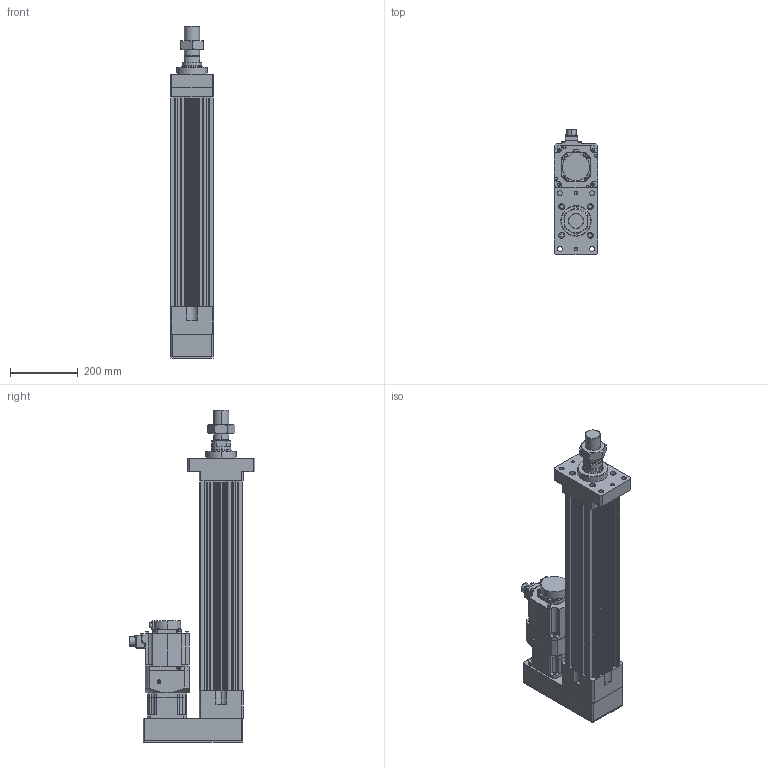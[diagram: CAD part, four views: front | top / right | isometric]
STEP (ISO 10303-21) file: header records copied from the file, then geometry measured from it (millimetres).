
FILE_DESCRIPTION (( 'STEP AP203' ), '1' );
FILE_NAME ('HES130NS(FS)(HS)-P400-W015G00-M-FMB.STEP', '2023-01-29T05:35:28', ( 'tms' ), ( '' ), 'SwSTEP 2.0', 'SolidWorks 2013', '' );
FILE_SCHEMA (( 'CONFIG_CONTROL_DESIGN' ));
Length unit declared in the file: millimetre
Products named in the file (8): M45X1.5P; AB115-003[HG-SR152]; AB1151; HES130 ROD M ST400; HES130NS(FS)(HS)-P400-W015G00-M-FMB; P0401400706; HG-SR152; HES130-P400-G120-FMB
Assembly tree (7 placements, depth 3):
  HES130NS(FS)(HS)-P400-W015G00-M-FMB
    HES130-P400-G120-FMB
    HES130 ROD M ST400
    M45X1.5P
    AB115-003[HG-SR152]
      AB1151
      P0401400706
    HG-SR152
Bounding box: 130 x 372.49 x 982 mm (x, y, z)
Volume: 11641024.4 mm3; surface area: 1368772.4 mm2
Topology: 4 solids, 11 shells, 1082 faces, 2768 edges, 1799 vertices
Faces by surface type: cylinder 513, plane 489, cone 68, bspline 8, torus 4
Entity records: 34626 total; most frequent: CARTESIAN_POINT 6632, DIRECTION 5993, ORIENTED_EDGE 5484, EDGE_CURVE 2752, AXIS2_PLACEMENT_3D 2228, VERTEX_POINT 1799, LINE 1537, VECTOR 1537
